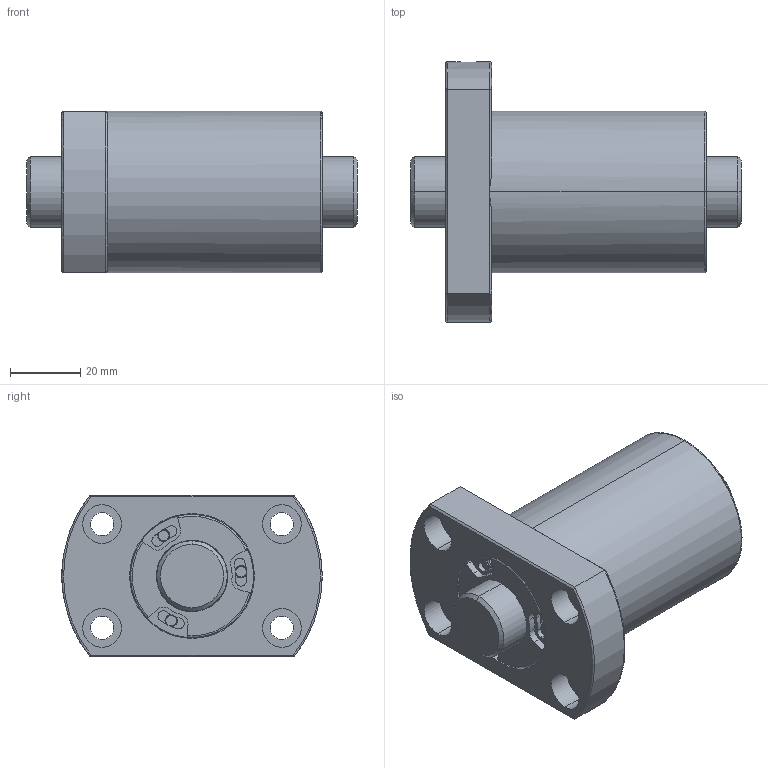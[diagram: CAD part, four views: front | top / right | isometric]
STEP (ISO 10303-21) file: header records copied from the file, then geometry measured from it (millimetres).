
FILE_DESCRIPTION (( 'STEP AP203' ), '1' );
FILE_NAME ('SFVSR02020B1D-C.STEP', '2020-06-17T05:06:34', ( '' ), ( '' ), 'SwSTEP 2.0', 'SolidWorks 2013', '' );
FILE_SCHEMA (( 'CONFIG_CONTROL_DESIGN' ));
Length unit declared in the file: millimetre
Products named in the file (1): SFVSR02020B1D-C
Bounding box: 94 x 74 x 46 mm (x, y, z)
Volume: 139593.1 mm3; surface area: 32663.8 mm2
Topology: 2 solids, 2 shells, 249 faces, 612 edges, 390 vertices
Faces by surface type: cylinder 136, plane 83, cone 16, bspline 14
Entity records: 8280 total; most frequent: CARTESIAN_POINT 2137, DIRECTION 1384, ORIENTED_EDGE 1224, EDGE_CURVE 612, AXIS2_PLACEMENT_3D 586, VERTEX_POINT 390, CIRCLE 350, EDGE_LOOP 286
